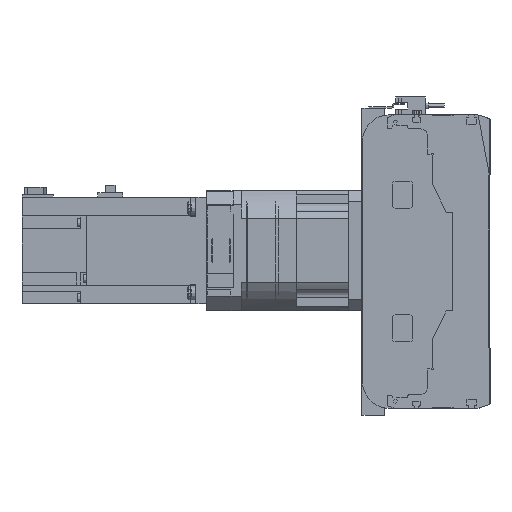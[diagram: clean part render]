
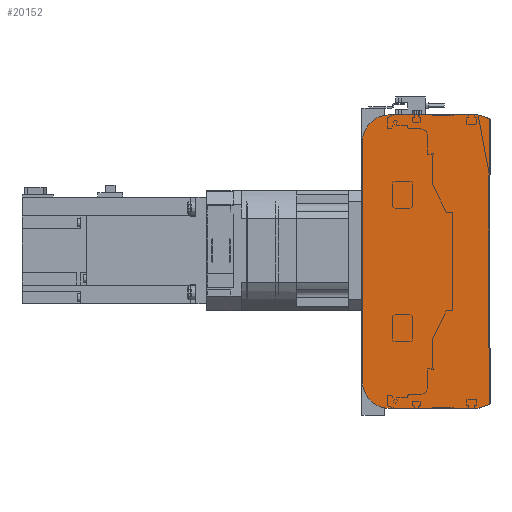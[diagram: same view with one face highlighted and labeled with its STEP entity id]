
A CAD part, left-side view. The second image highlights one B-rep face of the part: STEP entity #20152.
In plain terms, the highlighted planar face has unit normal (-1, 0, 0).
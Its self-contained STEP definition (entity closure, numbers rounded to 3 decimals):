
#1162=CIRCLE('',#21944,20.);
#1163=CIRCLE('',#21947,20.);
#4918=ORIENTED_EDGE('',*,*,#8712,.F.);
#4919=ORIENTED_EDGE('',*,*,#8754,.F.);
#4920=ORIENTED_EDGE('',*,*,#8752,.F.);
#4921=ORIENTED_EDGE('',*,*,#8750,.F.);
#4922=ORIENTED_EDGE('',*,*,#8739,.F.);
#4923=ORIENTED_EDGE('',*,*,#8730,.F.);
#4924=ORIENTED_EDGE('',*,*,#8726,.F.);
#4925=ORIENTED_EDGE('',*,*,#8723,.F.);
#8712=EDGE_CURVE('',#10953,#10954,#12763,.T.);
#8723=EDGE_CURVE('',#10954,#10961,#12774,.T.);
#8726=EDGE_CURVE('',#10961,#10963,#12777,.T.);
#8730=EDGE_CURVE('',#10963,#10964,#12781,.T.);
#8739=EDGE_CURVE('',#10964,#10970,#12790,.T.);
#8750=EDGE_CURVE('',#10970,#10977,#1162,.T.);
#8752=EDGE_CURVE('',#10977,#10978,#12802,.T.);
#8754=EDGE_CURVE('',#10978,#10953,#1163,.T.);
#10953=VERTEX_POINT('',#33498);
#10954=VERTEX_POINT('',#33500);
#10961=VERTEX_POINT('',#33519);
#10963=VERTEX_POINT('',#33525);
#10964=VERTEX_POINT('',#33531);
#10970=VERTEX_POINT('',#33547);
#10977=VERTEX_POINT('',#33566);
#10978=VERTEX_POINT('',#33570);
#12763=LINE('',#33499,#14364);
#12774=LINE('',#33518,#14375);
#12777=LINE('',#33524,#14378);
#12781=LINE('',#33530,#14382);
#12790=LINE('',#33546,#14391);
#12802=LINE('',#33569,#14403);
#14364=VECTOR('',#26511,1000.);
#14375=VECTOR('',#26524,1000.);
#14378=VECTOR('',#26529,1000.);
#14382=VECTOR('',#26535,1000.);
#14391=VECTOR('',#26546,1000.);
#14403=VECTOR('',#26564,1000.);
#15788=EDGE_LOOP('',(#4918,#4919,#4920,#4921,#4922,#4923,#4924,#4925));
#17782=FACE_BOUND('',#15788,.T.);
#19215=PLANE('',#21948);
#20152=ADVANCED_FACE('',(#17782),#19215,.F.);
#21944=AXIS2_PLACEMENT_3D('',#33565,#26559,#26560);
#21947=AXIS2_PLACEMENT_3D('',#33573,#26568,#26569);
#21948=AXIS2_PLACEMENT_3D('',#33574,#26570,#26571);
#26511=DIRECTION('',(0.,-1.,0.));
#26524=DIRECTION('',(0.,-0.945,-0.328));
#26529=DIRECTION('',(0.,0.,-1.));
#26535=DIRECTION('',(0.,0.945,-0.328));
#26546=DIRECTION('',(0.,1.,0.));
#26559=DIRECTION('',(1.,0.,0.));
#26560=DIRECTION('',(0.,0.,-1.));
#26564=DIRECTION('',(0.,0.,1.));
#26568=DIRECTION('',(1.,0.,0.));
#26569=DIRECTION('',(0.,0.,-1.));
#26570=DIRECTION('',(1.,0.,0.));
#26571=DIRECTION('',(0.,0.,-1.));
#33498=CARTESIAN_POINT('',(0.,75.5,110.));
#33499=CARTESIAN_POINT('',(0.,75.5,110.));
#33500=CARTESIAN_POINT('',(0.,9.,110.));
#33518=CARTESIAN_POINT('',(0.,9.,110.));
#33519=CARTESIAN_POINT('',(0.,0.5,107.05));
#33524=CARTESIAN_POINT('',(0.,0.5,107.05));
#33525=CARTESIAN_POINT('',(0.,0.5,-107.05));
#33530=CARTESIAN_POINT('',(0.,0.5,-107.05));
#33531=CARTESIAN_POINT('',(0.,9.,-110.));
#33546=CARTESIAN_POINT('',(0.,9.,-110.));
#33547=CARTESIAN_POINT('',(0.,75.5,-110.));
#33565=CARTESIAN_POINT('',(0.,75.5,-90.));
#33566=CARTESIAN_POINT('',(0.,95.5,-90.));
#33569=CARTESIAN_POINT('',(0.,95.5,-90.));
#33570=CARTESIAN_POINT('',(0.,95.5,90.));
#33573=CARTESIAN_POINT('',(0.,75.5,90.));
#33574=CARTESIAN_POINT('',(0.,75.5,-90.));
